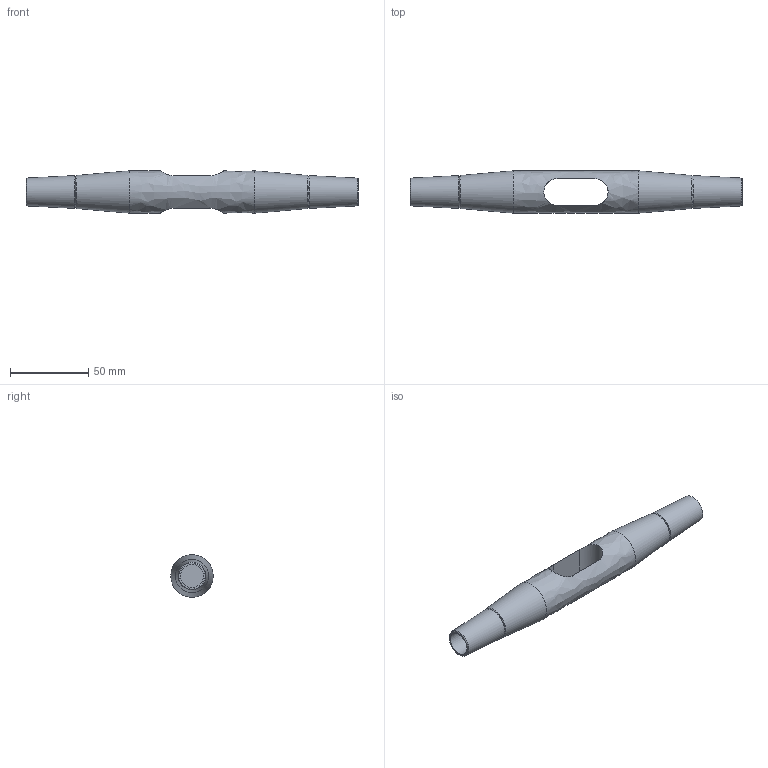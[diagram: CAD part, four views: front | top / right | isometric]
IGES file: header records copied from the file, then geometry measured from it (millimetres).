
Global section: file name: 520-014-KMF; native system: Autodesk Inventor 2016; preprocessor: unknown; author: Administrator; date: 20200702.131810; units: centimetre
Bounding box: 212 x 27 x 27 mm (x, y, z)
Volume: 71311.7 mm3; surface area: 19574.1 mm2
Topology: 1 solids, 1 shells, 21 faces, 55 edges, 38 vertices
Faces by surface type: bspline 21
